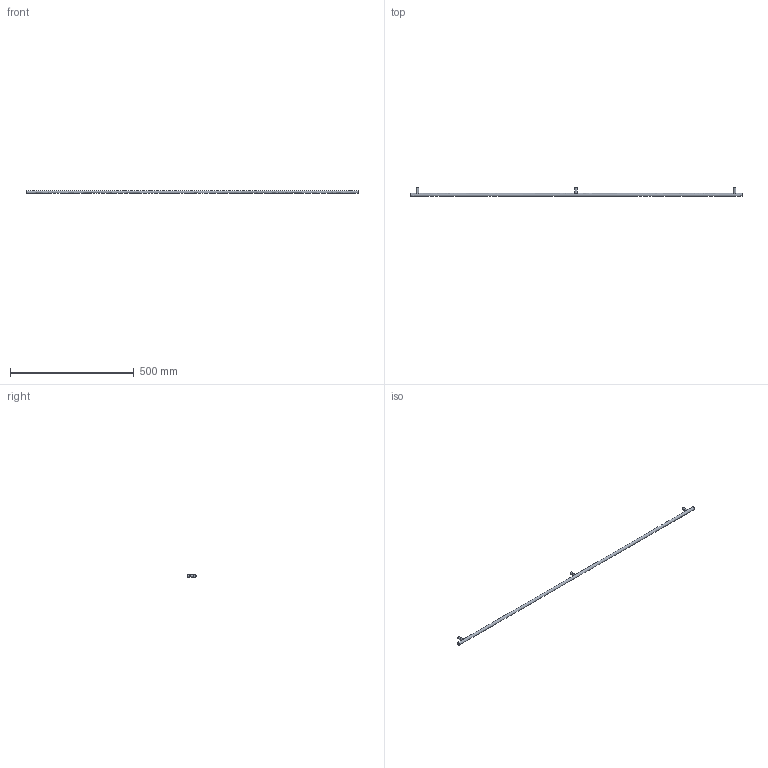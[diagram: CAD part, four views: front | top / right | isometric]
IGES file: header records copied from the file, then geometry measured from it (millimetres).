
Start section: Data from Parasolid IGES Translator 15.0.47, Copyright(c) 2006 Siemens P LM Software. All Rights Reserved.
Global section: file name: 9071042.igs; native system:  By UGS Corp.; preprocessor: XPlus GENERIC/IGES 3.0; author: Noname; organization: Noname; date: 20140122.181348; units: millimetre
Bounding box: 1340 x 35 x 12 mm (x, y, z)
Surface area: 53451 mm2 (no closed solid volume)
Topology: 0 solids, 0 shells, 15 faces, 42 edges, 30 vertices
Faces by surface type: extrusion 8, revolution 7
